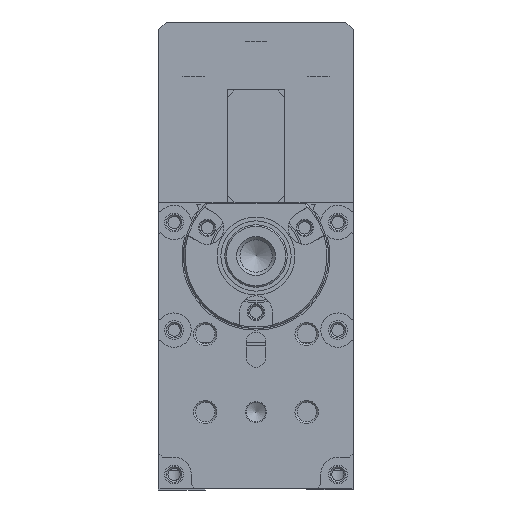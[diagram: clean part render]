
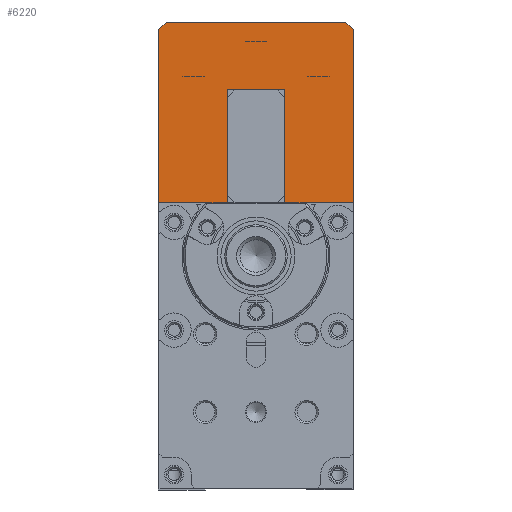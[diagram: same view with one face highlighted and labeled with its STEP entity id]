
A CAD part, front view. The second image highlights one B-rep face of the part: STEP entity #6220.
In plain terms, the highlighted planar face has unit normal (0, -1, 0) as drawn and (0, 0, 1) by its records, which use the part's own axes.
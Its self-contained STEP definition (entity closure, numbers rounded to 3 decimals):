
#5613=CARTESIAN_POINT('',(-14.5,8.8,227.5));
#5614=VERTEX_POINT('',#5613);
#5621=CARTESIAN_POINT('',(0.,8.8,227.5));
#5622=VERTEX_POINT('',#5621);
#5623=CARTESIAN_POINT('',(0.,8.8,227.5));
#5624=DIRECTION('',(-1.0,0.0,0.0));
#5625=VECTOR('',#5624,14.5);
#5626=LINE('',#5623,#5625);
#5627=EDGE_CURVE('',#5622,#5614,#5626,.T.);
#5644=CARTESIAN_POINT('',(-14.5,16.2,227.5));
#5645=VERTEX_POINT('',#5644);
#5652=CARTESIAN_POINT('',(-14.5,8.8,227.5));
#5653=DIRECTION('',(0.0,1.0,0.0));
#5654=VECTOR('',#5653,7.4);
#5655=LINE('',#5652,#5654);
#5656=EDGE_CURVE('',#5614,#5645,#5655,.T.);
#5679=CARTESIAN_POINT('',(0.,16.2,227.5));
#5680=VERTEX_POINT('',#5679);
#5687=CARTESIAN_POINT('',(-14.5,16.2,227.5));
#5688=DIRECTION('',(1.0,0.0,0.0));
#5689=VECTOR('',#5688,14.5);
#5690=LINE('',#5687,#5689);
#5691=EDGE_CURVE('',#5645,#5680,#5690,.T.);
#5703=CARTESIAN_POINT('',(0.0,0.0,227.5));
#5704=VERTEX_POINT('',#5703);
#5705=CARTESIAN_POINT('',(0.,8.8,227.5));
#5706=DIRECTION('',(0.0,-1.0,0.0));
#5707=VECTOR('',#5706,8.8);
#5708=LINE('',#5705,#5707);
#5709=EDGE_CURVE('',#5622,#5704,#5708,.T.);
#5750=CARTESIAN_POINT('',(0.,25.,227.5));
#5751=VERTEX_POINT('',#5750);
#5758=CARTESIAN_POINT('',(0.,25.,227.5));
#5759=DIRECTION('',(0.0,-1.0,0.0));
#5760=VECTOR('',#5759,8.8);
#5761=LINE('',#5758,#5760);
#5762=EDGE_CURVE('',#5751,#5680,#5761,.T.);
#6170=CARTESIAN_POINT('',(-11.6,12.5,227.5));
#6171=DIRECTION('',(0.0,0.0,1.0));
#6172=DIRECTION('',(1.0,0.0,0.0));
#6173=AXIS2_PLACEMENT_3D('',#6170,#6171,#6172);
#6174=PLANE('',#6173);
#6175=ORIENTED_EDGE('',*,*,#5627,.T.);
#6176=ORIENTED_EDGE('',*,*,#5656,.T.);
#6177=ORIENTED_EDGE('',*,*,#5691,.T.);
#6178=ORIENTED_EDGE('',*,*,#5762,.F.);
#6179=CARTESIAN_POINT('',(-22.2,25.0,227.5));
#6180=VERTEX_POINT('',#6179);
#6181=CARTESIAN_POINT('',(-22.2,25.0,227.5));
#6182=DIRECTION('',(1.0,0.0,0.0));
#6183=VECTOR('',#6182,22.2);
#6184=LINE('',#6181,#6183);
#6185=EDGE_CURVE('',#6180,#5751,#6184,.T.);
#6186=ORIENTED_EDGE('',*,*,#6185,.F.);
#6187=CARTESIAN_POINT('',(-23.2,24.,227.5));
#6188=VERTEX_POINT('',#6187);
#6189=CARTESIAN_POINT('',(-23.2,24.,227.5));
#6190=DIRECTION('',(0.707,0.707,0.0));
#6191=VECTOR('',#6190,1.414);
#6192=LINE('',#6189,#6191);
#6193=EDGE_CURVE('',#6188,#6180,#6192,.T.);
#6194=ORIENTED_EDGE('',*,*,#6193,.F.);
#6195=CARTESIAN_POINT('',(-23.2,1.,227.5));
#6196=VERTEX_POINT('',#6195);
#6197=CARTESIAN_POINT('',(-23.2,1.,227.5));
#6198=DIRECTION('',(0.0,1.0,0.0));
#6199=VECTOR('',#6198,23.);
#6200=LINE('',#6197,#6199);
#6201=EDGE_CURVE('',#6196,#6188,#6200,.T.);
#6202=ORIENTED_EDGE('',*,*,#6201,.F.);
#6203=CARTESIAN_POINT('',(-22.2,0.,227.5));
#6204=VERTEX_POINT('',#6203);
#6205=CARTESIAN_POINT('',(-22.2,0.,227.5));
#6206=DIRECTION('',(-0.707,0.707,0.0));
#6207=VECTOR('',#6206,1.414);
#6208=LINE('',#6205,#6207);
#6209=EDGE_CURVE('',#6204,#6196,#6208,.T.);
#6210=ORIENTED_EDGE('',*,*,#6209,.F.);
#6211=CARTESIAN_POINT('',(0.0,0.0,227.5));
#6212=DIRECTION('',(-1.0,0.0,0.0));
#6213=VECTOR('',#6212,22.2);
#6214=LINE('',#6211,#6213);
#6215=EDGE_CURVE('',#5704,#6204,#6214,.T.);
#6216=ORIENTED_EDGE('',*,*,#6215,.F.);
#6217=ORIENTED_EDGE('',*,*,#5709,.F.);
#6218=EDGE_LOOP('',(#6175,#6176,#6177,#6178,#6186,#6194,#6202,#6210,#6216,#6217));
#6219=FACE_OUTER_BOUND('',#6218,.T.);
#6220=ADVANCED_FACE('',(#6219),#6174,.T.);
